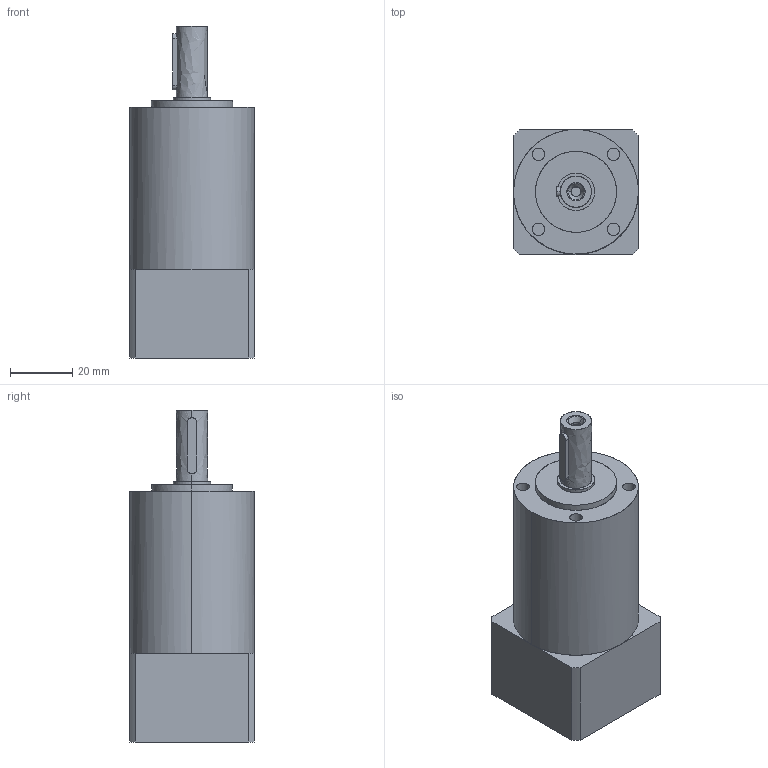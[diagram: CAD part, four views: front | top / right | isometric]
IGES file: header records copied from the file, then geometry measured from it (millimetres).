
Start section: Parasolid data in IGES format
Global section: file name: PLE40_2.igs; native system: Parasolid(11.0); preprocessor: Pariges 3.0; author: noname; organization: noname; date: 19991109.082616; units: millimetre
Bounding box: 40 x 40 x 106.5 mm (x, y, z)
Surface area: 16855.5 mm2 (no closed solid volume)
Topology: 0 solids, 0 shells, 72 faces, 923 edges, 923 vertices
Faces by surface type: bspline 72
